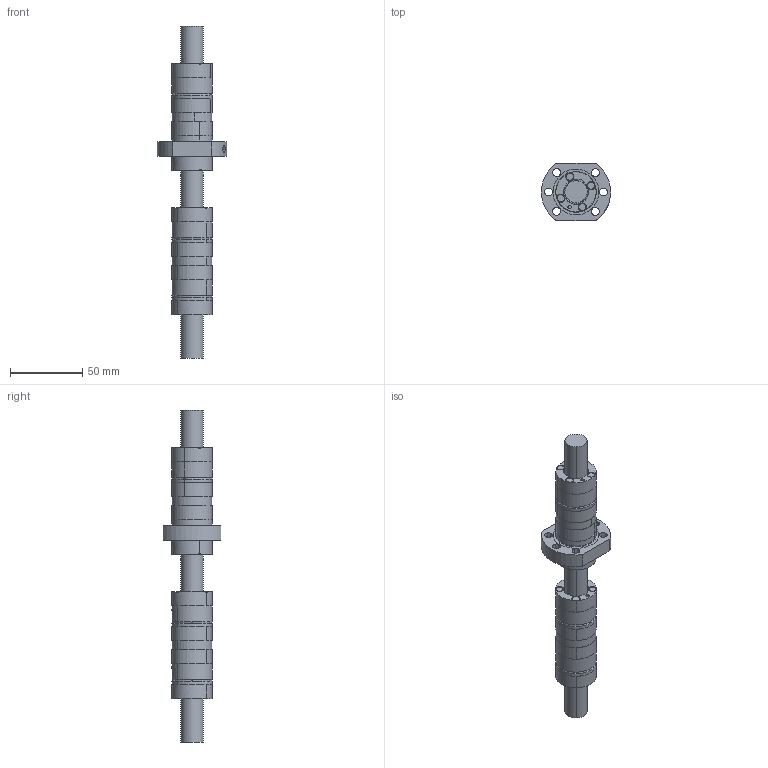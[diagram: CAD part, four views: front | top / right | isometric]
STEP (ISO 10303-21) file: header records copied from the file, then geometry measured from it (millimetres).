
FILE_DESCRIPTION(('Creo Elements/Direct Modeling STEP Export'),'2;1');
FILE_NAME('HSB-KGT-MM-1605RH-1g.stp','2020-09-17T10:06:46',(''),(''),'Creo Elements/Direct Modeling STEP processor for AP214 (Solid Model)','Creo Elements/Direct Modeling 20.1C 13-Oct-2019 (C) Parametric Technology GmbH','');
FILE_SCHEMA(('AUTOMOTIVE_DESIGN { 1 0 10303 214 1 1 1 1 }'));
Length unit declared in the file: millimetre
Products named in the file (4): KGM-FM-1605RH-1g_32207; KGM-MM-1605RH-1g_22900; KGS-1605RH-1g-T7_21445; HSB
Assembly tree (3 placements, depth 2):
  HSB
    KGS-1605RH-1g-T7_21445
    KGM-MM-1605RH-1g_22900
    KGM-FM-1605RH-1g_32207
Bounding box: 48 x 40 x 230 mm (x, y, z)
Volume: 113794.4 mm3; surface area: 37394.1 mm2
Topology: 3 solids, 3 shells, 359 faces, 994 edges, 657 vertices
Faces by surface type: plane 174, cylinder 116, cone 61, torus 8
Entity records: 17604 total; most frequent: CARTESIAN_POINT 8515, ORIENTED_EDGE 1984, DIRECTION 1412, EDGE_CURVE 992, VERTEX_POINT 657, AXIS2_PLACEMENT_3D 553, EDGE_LOOP 393, FACE_OUTER_BOUND 359
